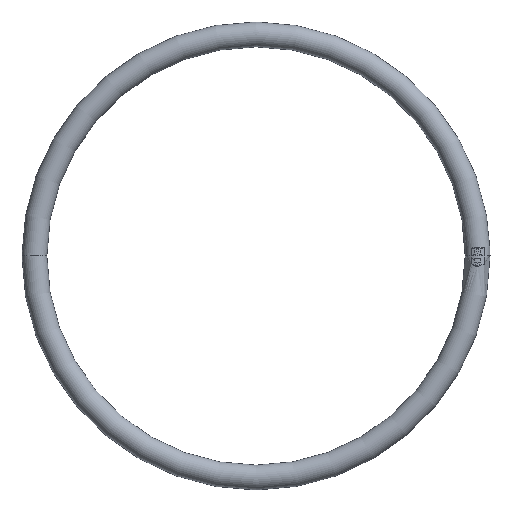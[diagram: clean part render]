
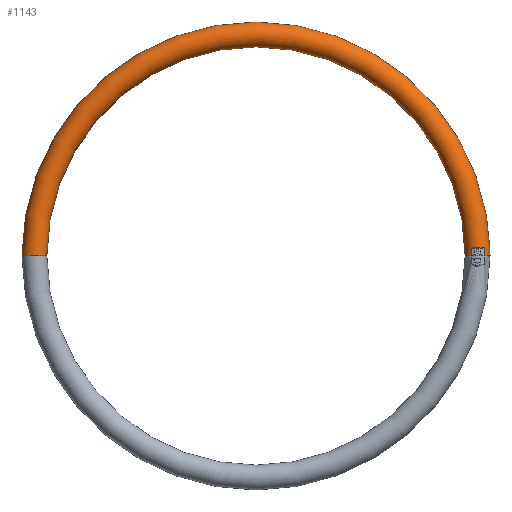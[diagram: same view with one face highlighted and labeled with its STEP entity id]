
A CAD part, top view. The second image highlights one B-rep face of the part: STEP entity #1143.
In plain terms, the highlighted toroidal (fillet/blend) face has major radius 22.25 mm and minor radius 1.25 mm.
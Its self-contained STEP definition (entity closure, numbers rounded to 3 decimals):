
#162 = CIRCLE ( 'NONE', #167, 23.5 ) ;
#167 = AXIS2_PLACEMENT_3D ( 'NONE', #189, #188, #187 ) ;
#187 = DIRECTION ( 'NONE',  ( -1., 0., 0. ) ) ;
#188 = DIRECTION ( 'NONE',  ( 0., 0., -1. ) ) ;
#189 = CARTESIAN_POINT ( 'NONE',  ( 0., 0., 0. ) ) ;
#190 = CIRCLE ( 'NONE', #207, 21. ) ;
#204 = DIRECTION ( 'NONE',  ( -1., 0., 0. ) ) ;
#205 = DIRECTION ( 'NONE',  ( 0., 0., -1. ) ) ;
#206 = CARTESIAN_POINT ( 'NONE',  ( 0., 0., 0. ) ) ;
#207 = AXIS2_PLACEMENT_3D ( 'NONE', #206, #205, #204 ) ;
#253 = CARTESIAN_POINT ( 'NONE',  ( -21., 0., 0. ) ) ;
#315 = CARTESIAN_POINT ( 'NONE',  ( 22.9, 0., 1.068 ) ) ;
#330 = CARTESIAN_POINT ( 'NONE',  ( 21.6, 0.552, 1.071 ) ) ;
#331 = CARTESIAN_POINT ( 'NONE',  ( 21.6, 0.276, 1.068 ) ) ;
#332 = CARTESIAN_POINT ( 'NONE',  ( 21.6, 0., 1.068 ) ) ;
#333 = CARTESIAN_POINT ( 'NONE',  ( 21.6, 0.828, 1.077 ) ) ;
#334 = B_SPLINE_CURVE_WITH_KNOTS ( 'NONE', 3,
 ( #332, #331, #330, #419 ),
 .UNSPECIFIED., .F., .F.,
 ( 4, 4 ),
 ( 0.5, 1. ),
 .UNSPECIFIED. ) ;
#335 = CARTESIAN_POINT ( 'NONE',  ( 21.6, 0., 1.068 ) ) ;
#336 = DIRECTION ( 'NONE',  ( -1., 0., 0. ) ) ;
#337 = DIRECTION ( 'NONE',  ( 0., 1., 0. ) ) ;
#338 = CARTESIAN_POINT ( 'NONE',  ( 22.25, 0., 0. ) ) ;
#339 = AXIS2_PLACEMENT_3D ( 'NONE', #338, #337, #336 ) ;
#340 = CIRCLE ( 'NONE', #339, 1.25 ) ;
#398 = CARTESIAN_POINT ( 'NONE',  ( 22.9, 0.828, 1.058 ) ) ;
#399 = CARTESIAN_POINT ( 'NONE',  ( 22.823, 0.828, 1.107 ) ) ;
#400 = CARTESIAN_POINT ( 'NONE',  ( 22.731, 0.828, 1.153 ) ) ;
#401 = CARTESIAN_POINT ( 'NONE',  ( 22.515, 0.828, 1.223 ) ) ;
#402 = CARTESIAN_POINT ( 'NONE',  ( 22.39, 0.828, 1.248 ) ) ;
#403 = CARTESIAN_POINT ( 'NONE',  ( 22.249, 0.828, 1.25 ) ) ;
#404 = CARTESIAN_POINT ( 'NONE',  ( 22.242, 0.828, 1.25 ) ) ;
#405 = CARTESIAN_POINT ( 'NONE',  ( 22.23, 0.828, 1.25 ) ) ;
#406 = CARTESIAN_POINT ( 'NONE',  ( 22.213, 0.828, 1.25 ) ) ;
#407 = CARTESIAN_POINT ( 'NONE',  ( 22.175, 0.828, 1.249 ) ) ;
#408 = CARTESIAN_POINT ( 'NONE',  ( 22.142, 0.828, 1.247 ) ) ;
#409 = CARTESIAN_POINT ( 'NONE',  ( 22.08, 0.828, 1.241 ) ) ;
#410 = CARTESIAN_POINT ( 'NONE',  ( 22.041, 0.828, 1.235 ) ) ;
#411 = CARTESIAN_POINT ( 'NONE',  ( 21.931, 0.828, 1.215 ) ) ;
#412 = CARTESIAN_POINT ( 'NONE',  ( 21.868, 0.828, 1.196 ) ) ;
#413 = CARTESIAN_POINT ( 'NONE',  ( 21.706, 0.828, 1.139 ) ) ;
#414 = CARTESIAN_POINT ( 'NONE',  ( 21.638, 0.828, 1.099 ) ) ;
#416 = CARTESIAN_POINT ( 'NONE',  ( 21.6, 0.828, 1.077 ) ) ;
#417 = CARTESIAN_POINT ( 'NONE',  ( 22.9, 0.828, 1.058 ) ) ;
#418 = B_SPLINE_CURVE_WITH_KNOTS ( 'NONE', 3,
 ( #416, #414, #413, #412, #411, #410, #409, #408, #407, #406, #405, #404, #403, #402, #401, #400, #399, #398 ),
 .UNSPECIFIED., .F., .F.,
 ( 4, 2, 2, 2, 1, 1, 2, 2, 2, 4 ),
 ( 0., 0.25, 0.375, 0.437, 0.469, 0.484, 0.492, 0.5, 0.75, 1. ),
 .UNSPECIFIED. ) ;
#419 = CARTESIAN_POINT ( 'NONE',  ( 21.6, 0.828, 1.077 ) ) ;
#426 = TOROIDAL_SURFACE ( 'NONE', #430, 22.25, 1.25 ) ;
#427 = DIRECTION ( 'NONE',  ( -1., 0., 0. ) ) ;
#428 = CIRCLE ( 'NONE', #429, 1.25 ) ;
#429 = AXIS2_PLACEMENT_3D ( 'NONE', #448, #443, #445 ) ;
#430 = AXIS2_PLACEMENT_3D ( 'NONE', #444, #440, #427 ) ;
#433 = FACE_OUTER_BOUND ( 'NONE', #1126, .T. ) ;
#440 = DIRECTION ( 'NONE',  ( 0., 0., -1. ) ) ;
#443 = DIRECTION ( 'NONE',  ( 0., -1., 0. ) ) ;
#444 = CARTESIAN_POINT ( 'NONE',  ( 0., 0., 0. ) ) ;
#445 = DIRECTION ( 'NONE',  ( 0., 0., -1. ) ) ;
#448 = CARTESIAN_POINT ( 'NONE',  ( -22.25, 0., 0. ) ) ;
#461 = CARTESIAN_POINT ( 'NONE',  ( 22.9, 0., 1.068 ) ) ;
#462 = CARTESIAN_POINT ( 'NONE',  ( 22.9, 0.276, 1.068 ) ) ;
#463 = CARTESIAN_POINT ( 'NONE',  ( 22.9, 0.552, 1.065 ) ) ;
#464 = CARTESIAN_POINT ( 'NONE',  ( 22.9, 0.828, 1.058 ) ) ;
#482 = B_SPLINE_CURVE_WITH_KNOTS ( 'NONE', 3,
 ( #464, #463, #462, #461 ),
 .UNSPECIFIED., .F., .F.,
 ( 4, 4 ),
 ( 0., 0.5 ),
 .UNSPECIFIED. ) ;
#532 = CARTESIAN_POINT ( 'NONE',  ( 21., 0., 0. ) ) ;
#539 = CARTESIAN_POINT ( 'NONE',  ( 22.25, 0., 0. ) ) ;
#542 = DIRECTION ( 'NONE',  ( -1., 0., 0. ) ) ;
#548 = DIRECTION ( 'NONE',  ( 0., 1., 0. ) ) ;
#549 = AXIS2_PLACEMENT_3D ( 'NONE', #539, #548, #542 ) ;
#550 = CIRCLE ( 'NONE', #549, 1.25 ) ;
#560 = CARTESIAN_POINT ( 'NONE',  ( -23.5, 0., 0. ) ) ;
#563 = CARTESIAN_POINT ( 'NONE',  ( 23.5, 0., 0. ) ) ;
#1107 = VERTEX_POINT ( 'NONE', #315 ) ;
#1109 = EDGE_CURVE ( 'NONE', #1190, #1110, #340, .T. ) ;
#1110 = VERTEX_POINT ( 'NONE', #335 ) ;
#1111 = ORIENTED_EDGE ( 'NONE', *, *, #1112, .T. ) ;
#1112 = EDGE_CURVE ( 'NONE', #1110, #1113, #334, .T. ) ;
#1113 = VERTEX_POINT ( 'NONE', #333 ) ;
#1114 = ORIENTED_EDGE ( 'NONE', *, *, #1154, .T. ) ;
#1115 = ORIENTED_EDGE ( 'NONE', *, *, #1116, .T. ) ;
#1116 = EDGE_CURVE ( 'NONE', #1113, #1117, #418, .T. ) ;
#1117 = VERTEX_POINT ( 'NONE', #417 ) ;
#1122 = ORIENTED_EDGE ( 'NONE', *, *, #1128, .T. ) ;
#1123 = ORIENTED_EDGE ( 'NONE', *, *, #1109, .T. ) ;
#1124 = EDGE_CURVE ( 'NONE', #1193, #1189, #162, .T. ) ;
#1126 = EDGE_LOOP ( 'NONE', ( #1144, #1145, #1122, #1123, #1111, #1115, #1114, #1152 ) ) ;
#1128 = EDGE_CURVE ( 'NONE', #1130, #1190, #190, .T. ) ;
#1130 = VERTEX_POINT ( 'NONE', #253 ) ;
#1143 = ADVANCED_FACE ( 'NONE', ( #433 ), #426, .T. ) ;
#1144 = ORIENTED_EDGE ( 'NONE', *, *, #1124, .F. ) ;
#1145 = ORIENTED_EDGE ( 'NONE', *, *, #1146, .F. ) ;
#1146 = EDGE_CURVE ( 'NONE', #1130, #1193, #428, .T. ) ;
#1152 = ORIENTED_EDGE ( 'NONE', *, *, #1185, .T. ) ;
#1154 = EDGE_CURVE ( 'NONE', #1117, #1107, #482, .T. ) ;
#1185 = EDGE_CURVE ( 'NONE', #1107, #1189, #550, .T. ) ;
#1189 = VERTEX_POINT ( 'NONE', #563 ) ;
#1190 = VERTEX_POINT ( 'NONE', #532 ) ;
#1193 = VERTEX_POINT ( 'NONE', #560 ) ;
